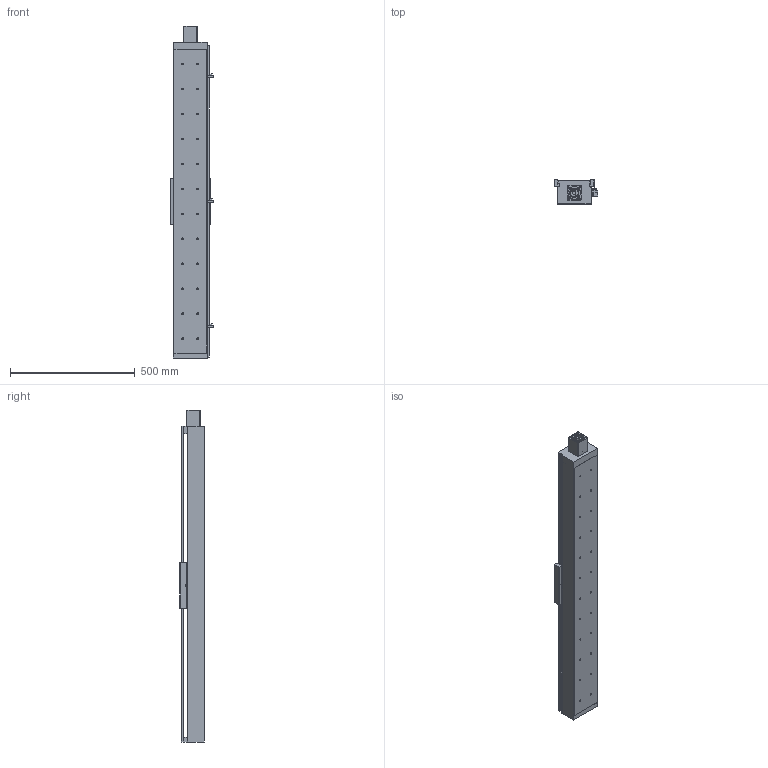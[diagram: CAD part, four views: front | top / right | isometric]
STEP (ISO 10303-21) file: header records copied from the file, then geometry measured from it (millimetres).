
FILE_DESCRIPTION((''),'2;1');
FILE_NAME('E:\libraries\UIA actuator library 2009\standard actuator\UIA136 ball screw 20\UIA136R15NDC stp file 27Apr16\UIA136R15NDC-1000-R20_ _-M60-P13-C10-S.stp','2016-04-27T14:34:14',('h029'),(''),'Autodesk Inventor 11','Autodesk Inventor 11','');
FILE_SCHEMA(('AUTOMOTIVE_DESIGN { 1 0 10303 214 1 1 1 1 }'));
Length unit declared in the file: millimetre
Products named in the file (10): UIA136R15NDC-1000; UIA136R15NDC-body; motor mount F60; SOH-32C; SOH-32C-3; SOH-32C-1; SOH-32C-2; Carriage; Sensor Switch; sensor rail
Assembly tree (9 placements, depth 3):
  UIA136R15NDC-1000
    UIA136R15NDC-body
    motor mount F60
    SOH-32C
      SOH-32C-3
      SOH-32C-1
      SOH-32C-2
    Carriage
    Sensor Switch
    sensor rail
Bounding box: 174.5 x 98 x 1330 mm (x, y, z)
Volume: 4918089.9 mm3; surface area: 1374493.9 mm2
Topology: 8 solids, 8 shells, 519 faces, 1353 edges, 889 vertices
Faces by surface type: plane 313, bspline 162, cylinder 40, cone 4
Full cylindrical faces by diameter (mm): 2.459 x2, 3.242 x2, 4.5 x2, 5.5 x3, 7.5 x2, 10 x2, 12 x1, 14 x1, 32 x3, 37 x1, 41.9 x1, 42.1 x1, 43.5 x1
Entity records: 17051 total; most frequent: CARTESIAN_POINT 5162, ORIENTED_EDGE 2282, DIRECTION 2218, EDGE_CURVE 1141, VERTEX_POINT 824, EDGE_LOOP 805, VECTOR 798, LINE 798
